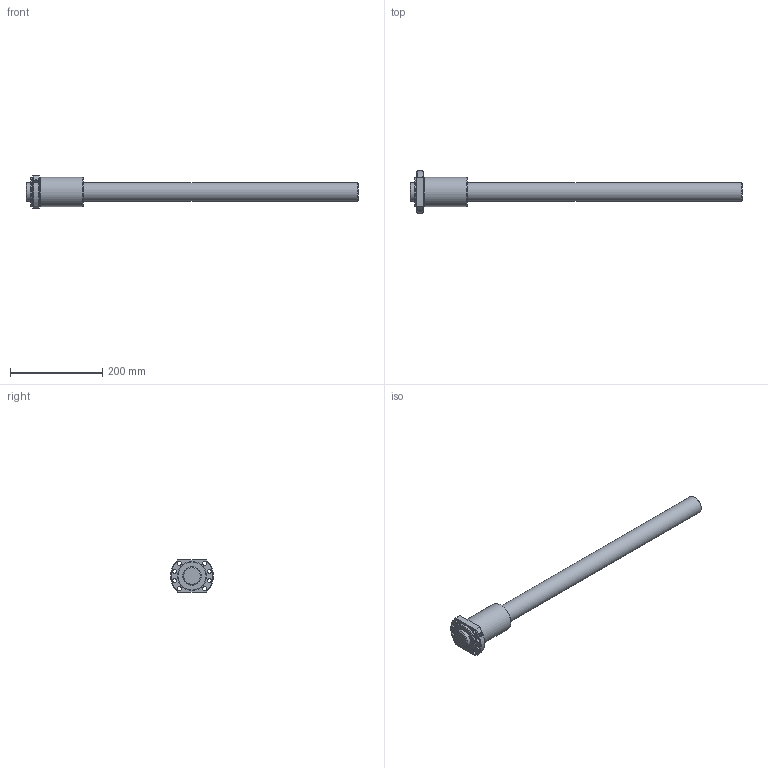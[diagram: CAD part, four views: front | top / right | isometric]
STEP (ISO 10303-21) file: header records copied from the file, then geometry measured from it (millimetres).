
FILE_DESCRIPTION(/* description */ ('STEP AP214'),/* implementation_level */ '2;1');
FILE_NAME(/* name */ 'EPB4010-6RRG0+720LC0(586G000)_rev',/* time_stamp */ '2023-08-03T13:29:31+02:00',/* author */ ('License CC BY-ND 4.0'),/* organization */ ('CADENAS'),/* preprocessor_version */ 'ST-DEVELOPER v19.3',/* originating_system */ 'PARTsolutions',/* authorisation */ ' ');
FILE_SCHEMA (('AUTOMOTIVE_DESIGN {1 0 10303 214 3 1 1}'));
Length unit declared in the file: millimetre
Products named in the file (3): EPB4010-6RRG0+720LC0(586G000)_rev; EPB 4010-6RR Nut1; EPB 4010-65860 Shaft1
Assembly tree (2 placements, depth 2):
  EPB4010-6RRG0+720LC0(586G000)_rev
    EPB 4010-6RR Nut1
    EPB 4010-65860 Shaft1
Bounding box: 720 x 93 x 70 mm (x, y, z)
Volume: 1144617.3 mm3; surface area: 142649.7 mm2
Topology: 2 solids, 2 shells, 34 faces, 77 edges, 50 vertices
Faces by surface type: cylinder 16, cone 9, plane 9
Full cylindrical faces by diameter (mm): 6.647 x1, 9 x8, 40 x2, 59.22 x1, 63 x2
Entity records: 1003 total; most frequent: CARTESIAN_POINT 187, DIRECTION 160, ORIENTED_EDGE 114, EDGE_LOOP 76, FACE_BOUND 76, AXIS2_PLACEMENT_3D 76, EDGE_CURVE 57, VERTEX_POINT 49
